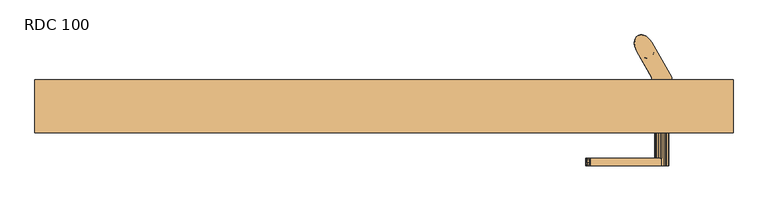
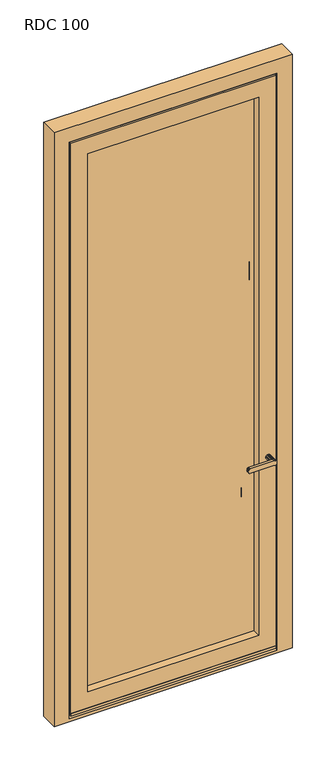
"""IFC4 building model written with IfcOpenShell, lengths in millimetres: door geometry, RDC 100."""

from ifc_helpers import new_model, si_unit, frame, origin, place, context, project, spatial, polyline, outline, extrude, faceted_brep, source, transform, mapped, element, save


def rdc_100_90584eb4(model_context):
    return source(origin(), model_context, "Body", "SolidModel", [
        faceted_brep([(781.7950515, 464.9671188, 3173.5), (778.3089649, 464.7977178, 3173.5), (775.20857, 463.6325784, 3173.5), (772.6493336, 461.5301259, 3173.5), (770.7595865, 458.5957857, 3173.5), (769.6340884, 454.9766982, 3173.5), (769.3292765, 450.8543393, 3173.5), (769.8604354, 446.4354214, 3173.5), (771.2009306, 441.9415275, 3173.5), (773.2835439, 437.5980002, 3173.5), (776.0038446, 433.622642, 3173.5), (779.2254254, 430.2147941, 3173.5), (782.7867427, 427.5453402, 3173.5), (786.5092172, 425.7481378, 3173.5), (790.2061885, 424.9133062, 3173.5), (793.6922751, 425.0827073, 3173.5), (796.7926699, 426.2478466, 3173.5), (799.3519063, 428.3502991, 3173.5), (801.2416535, 431.2846393, 3173.5), (802.3671516, 434.9037268, 3173.5), (802.6719635, 439.0260857, 3173.5), (802.1408046, 443.4450036, 3173.5), (800.8003094, 447.9388975, 3173.5), (798.717696, 452.2824248, 3173.5), (795.9973953, 456.257783, 3173.5), (792.7758146, 459.6656309, 3173.5), (789.2144973, 462.3350848, 3173.5), (785.4920228, 464.1322872, 3173.5), (799.3519063, 428.3502991, 213.5), (796.7926699, 426.2478466, 213.5), (793.6922751, 425.0827073, 213.5), (790.2061885, 424.9133062, 213.5), (786.5092172, 425.7481378, 213.5), (782.7867427, 427.5453402, 213.5), (779.2254254, 430.2147941, 213.5), (776.0038446, 433.622642, 213.5), (773.2835439, 437.5980002, 213.5), (771.2009306, 441.9415275, 213.5), (769.8604354, 446.4354214, 213.5), (769.3292765, 450.8543393, 213.5), (769.6340884, 454.9766982, 213.5), (770.7595865, 458.5957857, 213.5), (772.6493336, 461.5301259, 213.5), (775.20857, 463.6325784, 213.5), (778.3089649, 464.7977178, 213.5), (781.7950515, 464.9671188, 213.5), (785.4920228, 464.1322872, 213.5), (789.2144973, 462.3350848, 213.5), (792.7758146, 459.6656309, 213.5), (795.9973953, 456.257783, 213.5), (798.717696, 452.2824248, 213.5), (800.8003094, 447.9388975, 213.5), (802.1408046, 443.4450036, 213.5), (802.6719635, 439.0260857, 213.5), (802.3671516, 434.9037268, 213.5), (801.2416535, 431.2846393, 213.5), (775.4382854, 463.7611995, 3109.7202739), (773.2835439, 437.5980002, 305.882384), (770.096837, 456.8611962, 306.4622832), (783.6286225, 464.6737836, 3080.5377144), (783.6286239, 464.6737832, 297.5878259), (782.2503959, 464.9171769, 447.5991387), (788.7133741, 462.633364, 369.6983238), (776.7002876, 464.3371112, 368.3639702), (787.8536831, 463.1036002, 2017.9320828), (788.0570781, 462.9970291, 1923.1622134), (776.3111069, 464.1816353, 1969.471021), (769.3215203, 451.4374691, 3017.3016839), (773.8525674, 462.6929778, 3018.6360152), (770.5729144, 458.1711125, 2941.5941552), (773.2835439, 437.5980002, 3081.117616), (798.717696, 452.2824248, 3081.1176143), (798.717696, 452.2824248, 305.8823857), (786.1081687, 463.9007366, 2991.9159098), (769.5265438, 454.3273204, 395.0841039), (773.2835439, 437.5980002, 398.264768), (774.9823229, 463.4979492, 277.27972), (773.9644825, 462.7836018, 1319.9077775), (774.7679992, 463.3627966, 1415.6471907), (786.3881548, 463.7869455, 1361.207705), (772.1455564, 460.9165369, 460.8307156), (777.0379164, 464.4572952, 528.0009637), (787.6410792, 463.2119189, 2756.8613183), (798.717696, 452.2824248, 2710.4119218), (787.6539696, 463.2054407, 2664.1031244), (770.0968378, 456.8611986, 3089.4121677), (769.3737867, 452.9196575, 1554.573611), (769.3331652, 452.1422464, 1651.9272043), (775.1447373, 463.5954092, 1600.8824188), (798.717696, 452.2824248, 2988.7352287), (787.2275866, 463.4136252, 2849.455968), (798.717696, 452.2824248, 2895.8823842), (798.717696, 452.2824248, 2803.9704641), (798.717696, 452.2824248, 2803.0295398), (769.3375073, 450.5987754, 721.6031625), (769.3567233, 452.6570795, 813.9855457), (776.6688732, 464.3252466, 769.1927828), (775.6624945, 463.879234, 2710.4119319), (769.3746981, 452.9323319, 2480.6321356), (775.147664, 463.5971273, 2433.4275348), (769.3459644, 452.4557224, 2388.1321376), (775.272676, 463.6692748, 2525.1767042), (775.6624944, 463.8792339, 2617.7675376), (787.5288402, 463.2678387, 2570.094555), (773.2835439, 437.5980002, 952.5590718), (769.3301035, 452.04303, 900.9287605), (773.2835439, 437.5980002, 860.1766878), (769.3675949, 452.8303552, 2201.0537221), (773.2835439, 437.5980002, 2249.2056961), (769.3459644, 452.4557225, 2295.5145235), (786.4814203, 463.7478511, 1732.6163357), (774.0435965, 462.8461042, 1694.8280712), (774.9563773, 463.4819893, 1788.9182175), (769.3419041, 452.3680714, 2573.0145176), (787.5598195, 463.2524913, 1183.5150777), (787.9106278, 463.0740541, 1093.585659), (775.902952, 463.9979308, 1134.754917), (769.355789, 452.6409754, 1461.9559969), (773.2835439, 437.5980002, 1508.264768), (769.3443712, 452.4222865, 1371.4406735), (773.2835439, 437.5980002, 1415.6471519), (776.1406232, 464.1075509, 1878.9479538), (769.3559585, 452.6439126, 1832.4264532), (769.4392473, 453.6447667, 1925.0440673), (769.4099694, 453.3567772, 2664.0897353), (773.2835439, 437.5980002, 2341.8233122), (773.2835439, 437.5980002, 2432.5590722), (773.2835439, 437.5980002, 2434.4409282), (786.5218008, 463.7307401, 2384.8851606), (774.5244548, 463.1997646, 2341.8233312), (787.5136408, 463.2753443, 1829.1061855), (788.4798658, 462.7662363, 1645.4269877), (798.717696, 452.2824248, 1969.4709896), (773.7498308, 462.6074467, 2864.0921725), (778.7859506, 464.8834207, 2930.7084554), (798.717696, 452.2824248, 1691.6181474), (798.717696, 452.2824248, 1600.882384), (798.717696, 452.2824248, 1599.2357617), (787.3972815, 463.3322747, 1457.4592045), (786.2232203, 463.854626, 1272.1664524), (798.717696, 452.2824248, 1322.0886105), (798.717696, 452.2824248, 1230.4119199), (798.717696, 452.2824248, 1229.7062249), (769.3571051, 452.6635968, 1184.1031546), (775.1743901, 463.6127544, 1224.4782647), (769.329087, 452.0061998, 1739.8088391), (773.2835439, 437.5980002, 1693.5), (773.2835439, 437.5980002, 1784.2357655), (773.2835439, 437.5980002, 1786.117616), (798.717696, 452.2824248, 1878.735232), (798.717696, 452.2824248, 1876.8533775), (787.1516305, 463.4493953, 2476.0712384), (773.2835439, 437.5980002, 2339.941457), (798.717696, 452.2824248, 2432.5590737), (798.717696, 452.2824248, 2341.8233122), (798.717696, 452.2824248, 2339.9414616), (769.4323826, 453.5809697, 2760.2029636), (773.2835439, 437.5980002, 2711.5880801), (775.2365586, 463.6486774, 1508.2251806), (787.6565015, 463.2041669, 2108.3974412), (775.2739947, 463.6700231, 2156.5881032), (787.6307536, 463.2170997, 2201.0150551), (769.5196655, 454.2800512, 2015.8333542), (769.4122555, 453.3809152, 2106.5480553), (775.6039132, 463.8490917, 2062.9662927), (773.2835439, 437.5980002, 767.7943039), (798.717696, 452.2824248, 1044.9414594), (788.1433637, 462.9509461, 1008.1234025), (773.2835439, 437.5980002, 490.6471519), (769.3851929, 449.7531606, 461.1498017), (769.3458344, 452.4530358, 627.5817946), (769.3963374, 453.2055472, 536.8383937), (773.2835439, 437.5980002, 583.0295359), (786.930094, 463.5514578, 713.3140472), (782.3112408, 464.9093372, 619.4560475), (773.1279413, 462.0377675, 689.6168276), (769.4014717, 453.2640699, 1085.3241351), (773.2835439, 437.5980002, 1137.7943039), (769.3254684, 451.8487196, 1276.7207687), (798.717696, 452.2824248, 490.6471512), (798.717696, 452.2824248, 398.2647713), (792.6349348, 459.7909707, 444.4560006), (798.717696, 452.2824248, 860.176688), (789.0274434, 462.4485303, 906.3679313), (798.717696, 452.2824248, 952.5590737), (773.2431409, 462.1504562, 621.8958332), (773.2835439, 437.5980002, 675.4119199), (775.2085701, 463.6325785, 853.4847613), (787.6395548, 463.2126842, 813.9855493), (789.9107836, 461.8904181, 2924.3179136), (798.717696, 452.2824248, 2896.3528481), (776.6940556, 464.3347669, 2788.9717797), (769.8246921, 446.6084453, 2942.5440454), (773.2835439, 437.5980002, 2896.3528481), (773.2835439, 437.5980002, 2988.735232), (798.717696, 452.2824248, 2619.2056961), (798.717696, 452.2824248, 2617.7943038), (798.717696, 452.2824248, 2711.5880801), (798.717696, 452.2824248, 2525.1766858), (798.717696, 452.2824248, 2434.4409282), (773.2835439, 437.5980002, 2525.1766874), (773.2835439, 437.5980002, 2526.8233122), (773.2835439, 437.5980002, 2803.0295332), (773.2835439, 437.5980002, 2803.9704641), (786.8198492, 463.6009922, 2293.632669), (798.717696, 452.2824248, 2154.7062256), (798.717696, 452.2824248, 2249.2056961), (798.717696, 452.2824248, 2247.3238436), (774.5875791, 463.2430151, 2250.0419288), (773.2835439, 437.5980002, 2617.7943027), (773.2835439, 437.5980002, 2619.2056961), (798.717696, 452.2824248, 2526.8233122), (773.2835439, 437.5980002, 2710.4119179), (773.2835439, 437.5980002, 2156.5880801), (773.2835439, 437.5980002, 1878.735232), (773.2835439, 437.5980002, 1969.470996), (773.2835439, 437.5980002, 1971.3528481), (773.2835439, 437.5980002, 2062.0886112), (773.2835439, 437.5980002, 2063.9704641), (798.717696, 452.2824248, 2156.5880801), (798.717696, 452.2824248, 2063.9704641), (798.717696, 452.2824248, 2062.0886076), (773.2835439, 437.5980002, 2154.7062265), (773.2835439, 437.5980002, 2247.3238417), (798.717696, 452.2824248, 1971.3528481), (798.717696, 452.2824248, 1784.2357654), (798.717696, 452.2824248, 1693.5), (798.717696, 452.2824248, 1786.117616), (787.245171, 463.4052876, 1553.0446058), (798.717696, 452.2824248, 1506.853376), (798.717696, 452.2824248, 1508.264768), (798.717696, 452.2824248, 1414.4709962), (798.717696, 452.2824248, 1323.0295359), (798.717696, 452.2824248, 1137.323845), (798.717696, 452.2824248, 1137.7943039), (773.2835439, 437.5980002, 1229.7062239), (773.2835439, 437.5980002, 1230.4119199), (773.2835439, 437.5980002, 1322.0886127), (773.2835439, 437.5980002, 1323.0295359), (769.6279929, 454.9435278, 986.3205896), (776.453222, 464.2405737, 1044.9415053), (773.2835439, 437.5980002, 1045.1766878), (777.6313788, 464.6374177, 948.5095776), (773.2835439, 437.5980002, 1599.2357673), (773.2835439, 437.5980002, 1600.882384), (773.2835439, 437.5980002, 1876.8533807), (773.2835439, 437.5980002, 1414.4710015), (773.2835439, 437.5980002, 1506.8533844), (798.717696, 452.2824248, 1415.6471519), (798.717696, 452.2824248, 1045.1766878), (798.717696, 452.2824248, 767.7943023), (792.6132808, 459.8100799, 629.2207827), (798.717696, 452.2824248, 675.4119225), (798.717696, 452.2824248, 583.0295368), (773.2835439, 437.5980002, 1691.6181503), (789.5676839, 462.1139705, 536.8383992), (773.2835439, 437.5980002, 1044.9414581), (773.2835439, 437.5980002, 1137.323841), (769.3349927, 450.6679399, 2850.1616636), (773.2835439, 437.5980002, 2895.8823807), (796.5629546, 426.1192255, 3109.7202739), (801.904403, 433.0192288, 306.4622832), (788.3726175, 425.2066414, 3080.5377144), (788.3726161, 425.2066418, 297.5878259), (789.750844, 424.9632481, 447.5991387), (783.2878659, 427.247061, 369.6983238), (795.3009524, 425.5433138, 368.3639702), (784.1475568, 426.7768248, 2017.9320828), (783.9441618, 426.8833959, 1923.1622134), (795.690133, 425.6987897, 1969.471021), (802.6797196, 438.4429559, 3017.3016839), (798.1486725, 427.1874472, 3018.6360152), (801.4283256, 431.7093125, 2941.5941552), (785.8930712, 425.9796884, 2991.9159098), (802.4746961, 435.5531046, 395.0841039), (797.0189171, 426.3824758, 277.27972), (798.0367574, 427.0968232, 1319.9077775), (797.2332407, 426.5176284, 1415.6471907), (785.6130852, 426.0934795, 1361.207705), (799.8556835, 428.9638881, 460.8307156), (794.9633236, 425.4231298, 528.0009637), (784.3601608, 426.6685061, 2756.8613183), (784.3472704, 426.6749843, 2664.1031244), (801.9044022, 433.0192264, 3089.4121677), (802.6274533, 436.9607675, 1554.573611), (802.6680747, 437.7381786, 1651.9272043), (796.8565027, 426.2850158, 1600.8824188), (784.7736533, 426.4667998, 2849.455968), (802.6637327, 439.2816496, 721.6031625), (802.6445166, 437.2233455, 813.9855457), (795.3323668, 425.5551785, 769.1927828), (796.3387454, 426.001191, 2710.4119319), (802.6265418, 436.9480931, 2480.6321356), (796.8535759, 426.2832977, 2433.4275348), (802.6552755, 437.4247026, 2388.1321376), (796.728564, 426.2111502, 2525.1767042), (796.3387455, 426.0011911, 2617.7675376), (784.4723997, 426.6125863, 2570.094555), (802.6711364, 437.837395, 900.9287605), (802.6336451, 437.0500698, 2201.0537221), (802.6552755, 437.4247025, 2295.5145235), (785.5198197, 426.1325739, 1732.6163357), (797.9576435, 427.0343208, 1694.8280712), (797.0448627, 426.3984357, 1788.9182175), (802.6593358, 437.5123536, 2573.0145176), (784.4414204, 426.6279337, 1183.5150777), (784.0906122, 426.8063709, 1093.585659), (796.098288, 425.8824942, 1134.754917), (802.6454509, 437.2394496, 1461.9559969), (795.8606167, 425.7728741, 1878.9479538), (802.6452815, 437.2365124, 1832.4264532), (802.5619927, 436.2356583, 1925.0440673), (802.5912706, 436.5236478, 2664.0897353), (785.4794392, 426.1496849, 2384.8851606), (797.4767852, 426.6806604, 2341.8233312), (784.4875991, 426.6050807, 1829.1061855), (783.5213741, 427.1141887, 1645.4269877), (798.2514092, 427.2729783, 2864.0921725), (793.2152894, 424.9970043, 2930.7084554), (784.6039585, 426.5481503, 1457.4592045), (785.7780196, 426.025799, 1272.1664524), (802.6441349, 437.2168282, 1184.1031546), (796.8268499, 426.2676706, 1224.4782647), (802.672153, 437.8742252, 1739.8088391), (784.8496094, 426.4310297, 2476.0712384), (802.5688573, 436.2994553, 2760.2029636), (796.7646813, 426.2317476, 1508.2251806), (784.3447385, 426.6762581, 2108.3974412), (796.7272452, 426.2104019, 2156.5881032), (784.3704864, 426.6633253, 2201.0150551), (802.4815744, 435.6003738, 2015.8333542), (802.5889845, 436.4995098, 2106.5480553), (796.3973268, 426.0313333, 2062.9662927), (783.8578762, 426.9294789, 1008.1234025), (802.616047, 440.1272644, 461.1498017), (802.6554056, 437.4273892, 627.5817946), (802.6049025, 436.6748778, 536.8383937), (785.071146, 426.3289672, 713.3140472), (789.6899992, 424.9710878, 619.4560475), (798.8732986, 427.8426575, 689.6168276), (802.5997682, 436.6163551, 1085.3241351), (802.6757715, 438.0317054, 1276.7207687), (779.3663051, 430.0894543, 444.4560006), (782.9737966, 427.4318947, 906.3679313), (798.7580991, 427.7299688, 621.8958332), (796.7926698, 426.2478465, 853.4847613), (784.3616852, 426.6677408, 813.9855493), (782.0904563, 427.9900069, 2924.3179136), (795.3071843, 425.5456581, 2788.9717797), (802.1765478, 443.2719797, 2942.5440454), (785.1813907, 426.2794328, 2293.632669), (797.4136608, 426.6374099, 2250.0419288), (784.7560689, 426.4751374, 1553.0446058), (802.6568688, 437.4581385, 1371.4406735), (802.3732471, 434.9368972, 986.3205896), (795.5480179, 425.6398513, 1044.9415053), (794.3698611, 425.2430073, 948.5095776), (779.3879591, 430.0703451, 629.2207827), (782.4335561, 427.7664545, 536.8383992), (802.6662472, 439.2124851, 2850.1616636)], [[[0, 1, 2, 3, 4, 5, 6, 7, 8, 9, 10, 11, 12, 13, 14, 15, 16, 17, 18, 19, 20, 21, 22, 23, 24, 25, 26, 27]], [[28, 29, 30, 31, 32, 33, 34, 35, 36, 37, 38, 39, 40, 41, 42, 43, 44, 45, 46, 47, 48, 49, 50, 51, 52, 53, 54, 55]], [[56, 3, 2]], [[38, 57, 58]], [[59, 26, 25]], [[59, 0, 27]], [[47, 60, 48]], [[61, 62, 63]], [[64, 65, 66]], [[67, 68, 69]], [[45, 60, 46]], [[0, 56, 1]], [[70, 9, 8]], [[37, 36, 57]], [[24, 23, 71]], [[72, 50, 49]], [[59, 73, 68]], [[47, 46, 60]], [[74, 57, 75]], [[58, 76, 41]], [[77, 78, 79]], [[25, 24, 71]], [[80, 81, 61]], [[82, 83, 84]], [[6, 85, 7]], [[7, 70, 8]], [[86, 87, 88]], [[58, 57, 74]], [[60, 62, 72]], [[26, 59, 27]], [[73, 71, 89]], [[85, 67, 70]], [[76, 45, 44]], [[39, 58, 40]], [[90, 91, 92, 93]], [[94, 95, 96]], [[76, 44, 43]], [[84, 97, 82]], [[6, 5, 85]], [[98, 99, 100]], [[59, 56, 0]], [[85, 56, 68]], [[101, 102, 103]], [[58, 41, 40]], [[38, 37, 57]], [[60, 45, 76]], [[25, 71, 59]], [[76, 42, 41]], [[4, 3, 56]], [[63, 58, 74]], [[60, 76, 63]], [[4, 85, 5]], [[38, 58, 39]], [[48, 72, 49]], [[104, 105, 106]], [[56, 85, 4]], [[60, 72, 48]], [[59, 71, 73]], [[67, 85, 68]], [[62, 60, 63]], [[85, 70, 7]], [[107, 108, 109]], [[110, 111, 112]], [[98, 113, 101]], [[114, 115, 116]], [[86, 117, 118]], [[119, 120, 117]], [[121, 122, 123]], [[97, 102, 124]], [[100, 125, 126, 127]], [[99, 128, 129]], [[121, 130, 112]], [[131, 88, 111]], [[65, 64, 132]], [[112, 130, 110]], [[133, 69, 134]], [[131, 135, 136, 137]], [[78, 138, 79]], [[139, 140, 141, 142]], [[116, 143, 144]], [[145, 146, 147, 148]], [[65, 132, 149, 150]], [[151, 101, 103]], [[109, 108, 152, 125]], [[128, 153, 154, 155]], [[156, 124, 157]], [[158, 138, 78]], [[159, 160, 161]], [[162, 163, 164]], [[164, 159, 64]], [[95, 165, 106]], [[115, 166, 167]], [[75, 168, 169]], [[170, 171, 172]], [[173, 174, 175]], [[143, 176, 177]], [[178, 144, 143]], [[179, 180, 181]], [[171, 168, 172]], [[182, 183, 184]], [[170, 175, 185]], [[80, 169, 171]], [[94, 170, 186]], [[171, 81, 80]], [[95, 105, 187]], [[96, 173, 175]], [[96, 187, 188]], [[189, 89, 190, 91]], [[191, 90, 82]], [[124, 156, 97]], [[192, 193, 194]], [[82, 90, 93]], [[134, 189, 90]], [[90, 133, 134]], [[84, 83, 195, 196]], [[191, 82, 97]], [[82, 93, 197, 83]], [[103, 84, 196]], [[102, 97, 84]], [[151, 198, 199, 153]], [[198, 151, 103]], [[103, 102, 84]], [[102, 101, 113]], [[98, 127, 200, 201]], [[156, 157, 202, 203]], [[204, 128, 155]], [[99, 101, 151]], [[161, 205, 159]], [[204, 155, 206, 207]], [[204, 161, 208]], [[134, 68, 73]], [[191, 156, 133]], [[113, 201, 209, 210]], [[124, 113, 210]], [[98, 101, 99]], [[103, 196, 211, 198]], [[113, 124, 102]], [[98, 201, 113]], [[124, 210, 212, 157]], [[128, 99, 151]], [[125, 100, 109]], [[128, 151, 153]], [[129, 128, 204]], [[100, 99, 129]], [[98, 100, 127]], [[109, 100, 129]], [[107, 109, 208]], [[129, 208, 109]], [[163, 107, 160]], [[163, 213, 107]], [[204, 208, 129]], [[160, 107, 208]], [[160, 164, 163]], [[123, 214, 215, 216]], [[162, 216, 217, 218]], [[163, 162, 218]], [[123, 66, 121]], [[207, 161, 204]], [[162, 66, 123]], [[161, 207, 219, 205]], [[159, 205, 220, 221]], [[208, 161, 160]], [[64, 159, 221]], [[159, 164, 160]], [[163, 218, 222, 213]], [[107, 213, 223, 108]], [[164, 64, 66]], [[64, 221, 224, 132]], [[130, 65, 150]], [[121, 66, 65]], [[110, 225, 226, 135]], [[225, 110, 130]], [[131, 110, 135]], [[110, 131, 111]], [[130, 121, 65]], [[121, 112, 122]], [[130, 150, 227, 225]], [[138, 228, 229]], [[228, 137, 230, 229]], [[158, 88, 228]], [[79, 231, 232, 140]], [[231, 79, 138]], [[114, 139, 142]], [[79, 139, 77]], [[115, 114, 233]], [[114, 142, 234, 233]], [[139, 114, 144]], [[143, 177, 235, 236]], [[78, 119, 117]], [[143, 236, 178]], [[178, 236, 237, 238]], [[116, 176, 143]], [[239, 176, 240]], [[239, 241, 176]], [[242, 239, 240]], [[187, 105, 242]], [[86, 118, 243, 244]], [[122, 148, 245, 214]], [[112, 145, 122]], [[123, 122, 214]], [[145, 112, 111]], [[86, 244, 87]], [[145, 87, 146]], [[86, 88, 158]], [[138, 158, 228]], [[158, 78, 117]], [[158, 117, 86]], [[78, 77, 119]], [[119, 238, 246, 120]], [[117, 120, 247, 118]], [[119, 77, 178]], [[66, 162, 164]], [[216, 162, 123]], [[138, 229, 248, 231]], [[167, 184, 183]], [[116, 115, 240]], [[115, 233, 249, 166]], [[176, 116, 240]], [[114, 116, 144]], [[167, 240, 115]], [[187, 183, 188]], [[188, 250, 173]], [[250, 188, 182]], [[183, 187, 242]], [[251, 252, 253]], [[171, 170, 185]], [[105, 95, 106]], [[239, 105, 104]], [[95, 187, 96]], [[122, 145, 148]], [[87, 145, 111]], [[87, 111, 88]], [[87, 244, 254, 146]], [[173, 252, 251]], [[174, 251, 255]], [[137, 228, 131]], [[88, 131, 228]], [[77, 139, 144]], [[139, 79, 140]], [[119, 178, 238]], [[178, 77, 144]], [[186, 165, 94]], [[185, 175, 174]], [[170, 172, 186]], [[184, 167, 166]], [[242, 240, 167]], [[239, 104, 256, 241]], [[176, 241, 257, 177]], [[105, 239, 242]], [[255, 253, 179]], [[72, 62, 180]], [[80, 63, 74]], [[61, 181, 62]], [[61, 81, 255]], [[258, 203, 259, 193]], [[70, 67, 194]], [[258, 156, 203]], [[69, 192, 67]], [[69, 133, 258]], [[188, 183, 182]], [[167, 183, 242]], [[173, 96, 188]], [[96, 175, 94]], [[173, 250, 252]], [[63, 80, 61]], [[80, 74, 169]], [[95, 94, 165]], [[170, 94, 175]], [[258, 193, 192]], [[156, 258, 133]], [[68, 134, 69]], [[134, 73, 189]], [[89, 189, 73]], [[90, 189, 91]], [[255, 179, 181]], [[174, 255, 81]], [[75, 169, 74]], [[171, 169, 168]], [[156, 191, 97]], [[90, 191, 133]], [[42, 76, 43]], [[63, 76, 58]], [[1, 56, 2]], [[68, 56, 59]], [[174, 81, 185]], [[171, 185, 81]], [[62, 181, 180]], [[255, 181, 61]], [[67, 192, 194]], [[258, 192, 69]], [[255, 251, 253]], [[173, 251, 174]], [[260, 17, 16]], [[52, 72, 261]], [[262, 12, 11]], [[262, 14, 13]], [[33, 263, 34]], [[264, 265, 266]], [[267, 268, 269]], [[270, 271, 272]], [[31, 263, 32]], [[14, 260, 15]], [[71, 23, 22]], [[51, 50, 72]], [[10, 9, 70]], [[57, 36, 35]], [[262, 273, 271]], [[33, 32, 263]], [[274, 72, 180]], [[261, 275, 55]], [[276, 277, 278]], [[11, 10, 70]], [[279, 280, 264]], [[281, 212, 282]], [[20, 283, 21]], [[21, 71, 22]], [[284, 285, 286]], [[261, 72, 274]], [[263, 265, 57]], [[12, 262, 13]], [[273, 70, 194]], [[283, 270, 71]], [[275, 31, 30]], [[53, 261, 54]], [[287, 259, 203, 202]], [[288, 289, 290]], [[275, 30, 29]], [[282, 291, 281]], [[20, 19, 283]], [[292, 293, 294]], [[262, 260, 14]], [[283, 260, 271]], [[295, 296, 297]], [[261, 55, 54]], [[52, 51, 72]], [[263, 31, 275]], [[11, 70, 262]], [[275, 28, 55]], [[18, 17, 260]], [[266, 261, 274]], [[263, 275, 266]], [[18, 283, 19]], [[52, 261, 53]], [[34, 57, 35]], [[184, 298, 182]], [[260, 283, 18]], [[263, 57, 34]], [[262, 70, 273]], [[270, 283, 271]], [[265, 263, 266]], [[283, 71, 21]], [[299, 206, 300]], [[301, 302, 303]], [[292, 304, 295]], [[305, 306, 307]], [[284, 230, 137, 136]], [[308, 230, 284]], [[309, 310, 311]], [[291, 296, 312]], [[294, 154, 153, 199]], [[293, 313, 314]], [[309, 315, 303]], [[316, 286, 302]], [[268, 267, 215]], [[303, 315, 301]], [[317, 272, 318]], [[316, 254, 244, 243]], [[277, 319, 278]], [[320, 237, 236, 235]], [[307, 321, 322]], [[323, 226, 225, 227]], [[268, 215, 214, 245]], [[324, 295, 297]], [[300, 206, 155, 154]], [[313, 126, 125, 152]], [[325, 312, 197]], [[326, 319, 277]], [[327, 328, 329]], [[330, 331, 332]], [[332, 327, 267]], [[289, 250, 182]], [[306, 256, 333]], [[180, 179, 334]], [[335, 336, 253]], [[337, 338, 339]], [[321, 340, 234]], [[341, 322, 321]], [[168, 75, 342]], [[336, 179, 253]], [[106, 343, 104]], [[335, 339, 344]], [[279, 334, 336]], [[288, 335, 252]], [[336, 280, 279]], [[289, 298, 345]], [[290, 337, 339]], [[290, 345, 346]], [[347, 194, 193, 259]], [[348, 287, 281]], [[312, 325, 291]], [[349, 190, 89]], [[281, 287, 202]], [[318, 347, 287]], [[287, 317, 318]], [[282, 212, 210, 209]], [[348, 281, 291]], [[281, 202, 157, 212]], [[297, 282, 209]], [[296, 291, 282]], [[324, 200, 127, 126]], [[200, 324, 297]], [[297, 296, 282]], [[296, 295, 304]], [[292, 199, 198, 211]], [[325, 197, 93, 92]], [[350, 313, 152]], [[293, 295, 324]], [[329, 222, 327]], [[350, 152, 108, 223]], [[350, 329, 351]], [[318, 271, 273]], [[348, 325, 317]], [[304, 211, 196, 195]], [[312, 304, 195]], [[292, 295, 293]], [[297, 209, 201, 200]], [[304, 312, 296]], [[292, 211, 304]], [[312, 195, 83, 197]], [[313, 293, 324]], [[154, 294, 300]], [[313, 324, 126]], [[314, 313, 350]], [[294, 293, 314]], [[292, 294, 199]], [[300, 294, 314]], [[299, 300, 351]], [[314, 351, 300]], [[331, 299, 328]], [[331, 219, 299]], [[350, 351, 314]], [[328, 299, 351]], [[328, 332, 331]], [[311, 149, 132, 224]], [[330, 224, 221, 220]], [[331, 330, 220]], [[311, 269, 309]], [[223, 329, 350]], [[330, 269, 311]], [[329, 223, 213, 222]], [[327, 222, 218, 217]], [[351, 329, 328]], [[267, 327, 217]], [[327, 332, 328]], [[331, 220, 205, 219]], [[299, 219, 207, 206]], [[332, 267, 269]], [[267, 217, 216, 215]], [[315, 268, 245]], [[309, 269, 268]], [[301, 147, 146, 254]], [[147, 301, 315]], [[316, 301, 254]], [[301, 316, 302]], [[315, 309, 268]], [[309, 303, 310]], [[315, 245, 148, 147]], [[319, 352, 247]], [[352, 243, 118, 247]], [[326, 286, 352]], [[278, 246, 238, 237]], [[246, 278, 319]], [[305, 320, 235]], [[278, 320, 276]], [[306, 305, 257]], [[305, 235, 177, 257]], [[320, 305, 322]], [[321, 234, 142, 141]], [[277, 353, 308]], [[321, 141, 341]], [[341, 141, 140, 232]], [[307, 340, 321]], [[354, 340, 355]], [[354, 249, 340]], [[356, 354, 355]], [[345, 298, 356]], [[285, 284, 136]], [[310, 227, 150, 149]], [[303, 323, 310]], [[311, 310, 149]], [[323, 303, 302]], [[326, 284, 286]], [[323, 285, 226]], [[284, 326, 308]], [[319, 326, 352]], [[326, 277, 308]], [[353, 277, 276]], [[353, 248, 308]], [[353, 232, 231, 248]], [[308, 248, 229, 230]], [[353, 276, 341]], [[269, 330, 332]], [[224, 330, 311]], [[319, 247, 120, 246]], [[333, 104, 343]], [[307, 306, 355]], [[306, 257, 241, 256]], [[340, 307, 355]], [[305, 307, 322]], [[333, 355, 306]], [[345, 343, 346]], [[346, 165, 337]], [[165, 346, 106]], [[343, 345, 356]], [[357, 186, 172]], [[336, 335, 344]], [[298, 289, 182]], [[354, 298, 184]], [[289, 345, 290]], [[310, 323, 227]], [[285, 323, 302]], [[285, 302, 286]], [[285, 136, 135, 226]], [[337, 186, 357]], [[338, 357, 358]], [[243, 352, 316]], [[286, 316, 352]], [[276, 320, 322]], [[320, 278, 237]], [[353, 341, 232]], [[341, 276, 322]], [[252, 250, 288]], [[344, 339, 338]], [[335, 253, 252]], [[104, 333, 256]], [[356, 355, 333]], [[354, 184, 166, 249]], [[340, 249, 233, 234]], [[298, 354, 356]], [[358, 172, 168]], [[57, 265, 75]], [[279, 266, 274]], [[264, 342, 265]], [[264, 280, 358]], [[359, 92, 91, 190]], [[71, 270, 89]], [[359, 325, 92]], [[272, 349, 270]], [[272, 317, 359]], [[346, 343, 106]], [[333, 343, 356]], [[337, 290, 346]], [[290, 339, 288]], [[337, 165, 186]], [[266, 279, 264]], [[279, 274, 334]], [[289, 288, 250]], [[335, 288, 339]], [[359, 190, 349]], [[325, 359, 317]], [[271, 318, 272]], [[318, 273, 347]], [[194, 347, 273]], [[287, 347, 259]], [[358, 168, 342]], [[338, 358, 280]], [[180, 334, 274]], [[336, 334, 179]], [[325, 348, 291]], [[287, 348, 317]], [[28, 275, 29]], [[266, 275, 261]], [[15, 260, 16]], [[271, 260, 262]], [[338, 280, 344]], [[336, 344, 280]], [[265, 342, 75]], [[358, 342, 264]], [[270, 349, 89]], [[359, 349, 272]], [[358, 357, 172]], [[337, 357, 338]]]),
        faceted_brep([(827.5684577, 299.0, 1203.102886), (827.9769604, 299.0, 1200.0), (827.5684577, 299.0, 1196.897114), (826.3707884, 299.0, 1194.0056846), (824.4655717, 299.0, 1191.5227579), (821.982645, 299.0, 1189.6175412), (819.0912155, 299.0, 1188.4198719), (815.9883295, 299.0, 1188.0113692), (812.8854436, 299.0, 1188.4198719), (809.9940141, 299.0, 1189.6175412), (807.5110874, 299.0, 1191.5227579), (805.6058707, 299.0, 1194.0056846), (804.4082014, 299.0, 1196.897114), (803.9996987, 299.0, 1200.0), (804.4082014, 299.0, 1203.102886), (805.6058707, 299.0, 1205.9943154), (807.5110874, 299.0, 1208.4772421), (809.9940141, 299.0, 1210.3824588), (812.8854436, 299.0, 1211.5801281), (815.9883295, 299.0, 1211.9886308), (819.0912155, 299.0, 1211.5801281), (821.982645, 299.0, 1210.3824588), (824.4655717, 299.0, 1208.4772421), (826.3707884, 299.0, 1205.9943154), (815.9883295, 255.5001175, 1188.0113692), (812.8854436, 255.5001175, 1188.4198719), (809.9940141, 255.5001175, 1189.6175412), (807.5110874, 255.5001175, 1191.5227579), (805.6058707, 255.5001175, 1194.0056846), (804.4082014, 255.5001175, 1196.897114), (803.9996987, 255.5001175, 1200.0), (804.4082014, 255.5001175, 1203.102886), (805.6058707, 255.5001175, 1205.9943154), (807.5110874, 255.5001175, 1208.4772421), (809.9940141, 255.5001175, 1210.3824588), (812.8854436, 255.5001175, 1211.5801281), (815.9883295, 255.5001175, 1211.9886308), (815.9883295, 243.0000305, 1211.9886308), (819.0912155, 243.0000305, 1211.5801281), (821.982645, 243.0000305, 1210.3824588), (824.4655717, 243.0000305, 1208.4772421), (826.3707884, 243.0000305, 1205.9943154), (827.5684577, 243.0000305, 1203.102886), (827.9769604, 243.0000305, 1200.0), (827.5684577, 243.0000305, 1196.897114), (826.3707884, 243.0000305, 1194.0056846), (824.4655717, 243.0000305, 1191.5227579), (821.982645, 243.0000305, 1189.6175412), (819.0912155, 243.0000305, 1188.4198719), (815.9883295, 243.0000305, 1188.0113692), (694.3265369, 243.0000305, 1211.9886308), (692.7843324, 243.0000305, 1211.7582726), (691.301394, 243.0000305, 1211.0760506), (689.9347101, 243.0000305, 1209.9681822), (688.7368016, 243.0000305, 1208.4772421), (687.7537035, 243.0000305, 1206.6605264), (687.0231958, 243.0000305, 1204.5878504), (686.5733513, 243.0000305, 1202.3388658), (686.4214574, 243.0000305, 1200.0), (686.5733513, 243.0000305, 1197.6611342), (687.0231958, 243.0000305, 1195.4121496), (687.7537035, 243.0000305, 1193.3394736), (688.7368016, 243.0000305, 1191.5227579), (689.9347101, 243.0000305, 1190.0318178), (691.301394, 243.0000305, 1188.9239494), (692.7843324, 243.0000305, 1188.2417274), (694.3265369, 243.0000305, 1188.0113692), (686.5733513, 255.5001175, 1197.6611342), (686.4214574, 255.5001175, 1200.0), (686.5733513, 255.5001175, 1202.3388658), (687.0231958, 255.5001175, 1204.5878504), (687.7537035, 255.5001175, 1206.6605264), (688.7368016, 255.5001175, 1208.4772421), (689.9347101, 255.5001175, 1209.9681822), (691.301394, 255.5001175, 1211.0760506), (692.7843324, 255.5001175, 1211.7582726), (694.3265369, 255.5001175, 1211.9886308), (694.3265369, 255.5001175, 1188.0113692), (692.7843324, 255.5001175, 1188.2417274), (691.301394, 255.5001175, 1188.9239494), (689.9347101, 255.5001175, 1190.0318178), (688.7368016, 255.5001175, 1191.5227579), (687.7537035, 255.5001175, 1193.3394736), (687.0231958, 255.5001175, 1195.4121496), (694.3265369, 250.0756599, 1188.0113692), (690.6001083, 249.2500761, 1189.4269715), (688.2158278, 249.2500743, 1192.3944932), (686.7618475, 249.250074, 1196.5198842), (687.3548792, 249.250074, 1205.6514014), (686.4595226, 249.2500741, 1201.1750915), (689.3116076, 249.250074, 1209.2673369), (692.0318135, 249.250074, 1211.4724044), (694.3265369, 249.250074, 1211.9886308)], [[[0, 1, 2, 3, 4, 5, 6, 7, 8, 9, 10, 11, 12, 13, 14, 15, 16, 17, 18, 19, 20, 21, 22, 23]], [[7, 24, 25, 8]], [[8, 25, 26, 9]], [[11, 10, 27, 28]], [[27, 10, 9, 26]], [[12, 11, 28, 29]], [[12, 29, 30, 13]], [[13, 30, 31, 14]], [[14, 31, 32, 15]], [[17, 16, 33, 34]], [[33, 16, 15, 32]], [[18, 17, 34, 35]], [[18, 35, 36, 19]], [[19, 36, 37, 38, 20]], [[20, 38, 39, 21]], [[23, 22, 40, 41]], [[40, 22, 21, 39]], [[0, 23, 41, 42]], [[0, 42, 43, 1]], [[1, 43, 44, 2]], [[2, 44, 45, 3]], [[5, 4, 46, 47]], [[46, 4, 3, 45]], [[6, 5, 47, 48]], [[6, 48, 49, 24, 7]], [[44, 43, 42, 41, 40, 39, 38, 37, 50, 51, 52, 53, 54, 55, 56, 57, 58, 59, 60, 61, 62, 63, 64, 65, 66, 49, 48, 47, 46, 45]], [[67, 68, 69, 70, 71, 72, 73, 74, 75, 76, 36, 35, 34, 33, 32, 31, 30, 29, 28, 27, 26, 25, 24, 77, 78, 79, 80, 81, 82, 83]], [[24, 49, 66, 84, 77]], [[65, 64, 85]], [[86, 85, 63]], [[82, 87, 83]], [[80, 86, 81]], [[69, 88, 70]], [[84, 85, 78]], [[87, 60, 59]], [[89, 57, 56]], [[60, 87, 86]], [[73, 90, 91, 74]], [[62, 61, 86]], [[90, 72, 71, 88]], [[89, 87, 58]], [[79, 85, 80]], [[78, 77, 84]], [[65, 84, 66]], [[79, 78, 85]], [[87, 59, 58]], [[63, 85, 64]], [[61, 60, 86]], [[63, 62, 86]], [[81, 86, 82]], [[80, 85, 86]], [[75, 92, 76]], [[51, 50, 92]], [[88, 55, 54, 90]], [[82, 86, 87]], [[84, 65, 85]], [[67, 83, 87]], [[53, 52, 91, 90]], [[67, 87, 89]], [[88, 56, 55]], [[56, 88, 89]], [[52, 51, 91]], [[90, 54, 53]], [[68, 67, 89]], [[68, 89, 69]], [[69, 89, 88]], [[70, 88, 71]], [[51, 92, 91]], [[90, 73, 72]], [[74, 91, 75]], [[91, 92, 75]], [[89, 58, 57]], [[37, 36, 76, 92, 50]]]),
        faceted_brep([(-174.0, 299.0, 3204.0), (-174.0, 299.0, 165.0072496), (-174.0, 307.3, 167.8651688), (-174.0, 307.3, 3204.0), (-194.5, 307.3, 167.8651688), (-194.5, 307.3, 3224.5), (881.4883295, 307.3, 3224.5), (881.4883295, 307.3, 167.8651688), (860.9883295, 307.3, 167.8651688), (860.9883295, 307.3, 3204.0), (-194.5, 313.5, 170.0), (-194.5, 321.0, 170.0), (-194.5, 321.0, 164.3), (-194.5, 380.7, 164.3), (-194.5, 380.7, 3224.5), (-206.0, 388.9993365, 150.0), (-206.0, 388.9993365, 3236.0), (-206.0, 380.7, 3236.0), (-206.0, 380.7, 150.0), (-250.0, 388.9993365, 150.0), (-250.0, 388.9993365, 3280.0), (936.9883295, 388.9993365, 3280.0), (936.9883295, 388.9993365, 150.0), (892.9883295, 388.9993365, 150.0), (892.9883295, 388.9993365, 3236.0), (860.9883295, 299.0, 165.0072496), (860.9883295, 299.0, 3204.0), (892.9883295, 380.7, 150.0), (892.9883295, 380.7, 3236.0), (881.4883295, 380.7, 3224.5), (881.4883295, 380.7, 164.3), (881.4883295, 321.0, 164.3), (881.4883295, 321.0, 170.0), (881.4883295, 313.5, 170.0), (-250.0, 299.0, 3280.0), (936.9883295, 299.0, 3280.0), (-250.0, 299.0, 150.0), (936.9883295, 299.0, 150.0)], [[[0, 1, 2, 3]], [[3, 2, 4, 5, 6, 7, 8, 9]], [[5, 4, 10, 11, 12, 13, 14]], [[15, 16, 17, 18]], [[19, 20, 21, 22, 23, 24, 16, 15]], [[9, 8, 25, 26]], [[24, 23, 27, 28]], [[29, 30, 31, 32, 33, 7, 6]], [[26, 0, 3, 9]], [[28, 17, 16, 24]], [[21, 20, 34, 35]], [[29, 6, 5, 14]], [[19, 36, 34, 20]], [[35, 37, 22, 21]], [[37, 35, 34, 36], [1, 0, 26, 25]], [[19, 15, 18, 27, 23, 22, 37, 36]], [[10, 4, 2, 1, 25, 8, 7, 33]], [[18, 17, 28, 27], [30, 29, 14, 13]], [[13, 12, 31, 30]], [[12, 11, 32, 31]], [[11, 10, 33, 32]]]),
        faceted_brep([(799.0322291, 393.0, 3143.5), (832.94443, 393.0, 3143.5), (832.94443, 389.0, 3143.5), (799.0322291, 389.0, 3143.5), (799.0322291, 393.0, 3173.5), (832.94443, 393.0, 3173.5), (799.0322291, 389.0, 3177.5), (799.0322291, 393.0, 3177.5), (832.94443, 389.0, 3177.5), (832.94443, 393.0, 3177.5), (798.717696, 452.2824248, 3173.5), (773.2835439, 437.5980002, 3173.5), (771.2009306, 441.9415275, 3173.5), (769.8604354, 446.4354214, 3173.5), (769.3292765, 450.8543393, 3173.5), (769.6340884, 454.9766982, 3173.5), (770.7595865, 458.5957857, 3173.5), (772.6493336, 461.5301259, 3173.5), (775.20857, 463.6325784, 3173.5), (778.3089649, 464.7977178, 3173.5), (781.7950515, 464.9671188, 3173.5), (785.4920228, 464.1322872, 3173.5), (789.2144973, 462.3350848, 3173.5), (792.7758146, 459.6656309, 3173.5), (795.9973953, 456.257783, 3173.5), (781.7950515, 464.9671188, 3177.5), (778.3089649, 464.7977178, 3177.5), (775.20857, 463.6325784, 3177.5), (772.6493336, 461.5301259, 3177.5), (770.7595865, 458.5957857, 3177.5), (769.6340884, 454.9766982, 3177.5), (769.3292765, 450.8543393, 3177.5), (769.8604354, 446.4354214, 3177.5), (771.2009306, 441.9415275, 3177.5), (773.2835439, 437.5980002, 3177.5), (798.717696, 452.2824248, 3177.5), (795.9973953, 456.257783, 3177.5), (792.7758146, 459.6656309, 3177.5), (789.2144973, 462.3350848, 3177.5), (785.4920228, 464.1322872, 3177.5), (798.717696, 452.2824248, 3175.9099144), (773.2835439, 437.5980002, 3175.0900863), (771.6139998, 460.1586458, 3175.5), (783.6286215, 464.6737838, 3175.5), (769.3437719, 450.4468931, 3175.5)], [[[0, 1, 2, 3]], [[4, 5, 1, 0]], [[4, 0, 3, 6, 7]], [[6, 3, 2, 8]], [[5, 9, 8, 2, 1]], [[10, 5, 4, 11, 12, 13, 14, 15, 16, 17, 18, 19, 20, 21, 22, 23, 24]], [[25, 26, 27, 28, 29, 30, 31, 32, 33, 34, 7, 6, 8, 9, 35, 36, 37, 38, 39]], [[9, 5, 10, 40, 35]], [[4, 7, 34, 41, 11]], [[36, 35, 40]], [[40, 10, 24]], [[28, 42, 29]], [[40, 23, 43]], [[24, 23, 40]], [[21, 20, 43]], [[37, 43, 38]], [[39, 43, 25]], [[43, 19, 18]], [[12, 11, 41]], [[41, 34, 33]], [[21, 43, 22]], [[40, 37, 36]], [[43, 20, 19]], [[42, 16, 15]], [[43, 23, 22]], [[44, 41, 33]], [[43, 39, 38]], [[43, 26, 25]], [[43, 37, 40]], [[26, 43, 27]], [[42, 43, 18]], [[42, 17, 16]], [[14, 44, 15]], [[41, 13, 12]], [[41, 44, 13]], [[13, 44, 14]], [[33, 32, 44]], [[27, 43, 42]], [[17, 42, 18]], [[28, 27, 42]], [[29, 42, 30]], [[30, 42, 44]], [[44, 42, 15]], [[44, 31, 30]], [[44, 32, 31]]]),
        faceted_brep([(832.94443, 393.0, 243.5), (799.0322291, 393.0, 243.5), (799.0322291, 389.0, 243.5), (832.94443, 389.0, 243.5), (832.94443, 393.0, 213.5), (799.0322291, 393.0, 213.5), (799.0322291, 393.0, 209.5), (799.0322291, 389.0, 209.5), (832.94443, 389.0, 209.5), (832.94443, 393.0, 209.5), (778.308967, 464.7977182, 213.5), (775.2085716, 463.6325794, 213.5), (772.6493347, 461.5301271, 213.5), (770.7595871, 458.5957871, 213.5), (769.6340886, 454.9766994, 213.5), (769.3292765, 450.8543403, 213.5), (769.8604352, 446.4354221, 213.5), (771.2009304, 441.9415279, 213.5), (773.2835439, 437.5980002, 213.5), (798.7176987, 452.2824201, 213.5), (795.9973984, 456.2577791, 213.5), (792.7758179, 459.6656279, 213.5), (789.2145005, 462.3350828, 213.5), (785.4920258, 464.1322861, 213.5), (781.7950541, 464.9671186, 213.5), (773.2835439, 437.5980002, 209.5), (771.2009304, 441.9415279, 209.5), (769.8604352, 446.4354221, 209.5), (769.3292765, 450.8543403, 209.5), (769.6340886, 454.9766994, 209.5), (770.7595871, 458.5957871, 209.5), (772.6493347, 461.5301271, 209.5), (775.2085716, 463.6325794, 209.5), (778.308967, 464.7977182, 209.5), (781.7950541, 464.9671186, 209.5), (785.4920258, 464.1322861, 209.5), (789.2145005, 462.3350828, 209.5), (792.7758179, 459.6656279, 209.5), (795.9973984, 456.2577791, 209.5), (798.7176987, 452.2824201, 209.5), (798.7176987, 452.2824201, 211.9099144), (773.2835439, 437.5980002, 211.0900847), (771.6140006, 460.1586471, 211.5), (783.6286243, 464.6737832, 211.5), (769.3437718, 450.4468941, 211.5)], [[[0, 1, 2, 3]], [[1, 0, 4, 5]], [[5, 6, 7, 2, 1]], [[2, 7, 8, 3]], [[4, 0, 3, 8, 9]], [[10, 11, 12, 13, 14, 15, 16, 17, 18, 5, 4, 19, 20, 21, 22, 23, 24]], [[9, 8, 7, 6, 25, 26, 27, 28, 29, 30, 31, 32, 33, 34, 35, 36, 37, 38, 39]], [[4, 9, 39, 40, 19]], [[6, 5, 18, 41, 25]], [[20, 19, 40]], [[40, 39, 38]], [[12, 42, 13]], [[40, 37, 43]], [[38, 37, 40]], [[35, 34, 43]], [[21, 43, 22]], [[23, 43, 24]], [[43, 33, 32]], [[26, 25, 41]], [[41, 18, 17]], [[35, 43, 36]], [[40, 21, 20]], [[43, 34, 33]], [[42, 30, 29]], [[43, 37, 36]], [[44, 41, 17]], [[43, 23, 22]], [[43, 10, 24]], [[43, 21, 40]], [[10, 43, 11]], [[42, 43, 32]], [[42, 31, 30]], [[28, 44, 29]], [[41, 27, 26]], [[41, 44, 27]], [[27, 44, 28]], [[17, 16, 44]], [[11, 43, 42]], [[31, 42, 32]], [[12, 11, 42]], [[13, 42, 14]], [[14, 42, 44]], [[44, 42, 29]], [[44, 15, 14]], [[44, 16, 15]]]),
        extrude(outline(polyline([(853.9883295, 299.0), (-167.0, 299.0), (-167.0, 307.3), (853.9883295, 307.3), (853.9883295, 299.0)])), frame((0.0, 0.0, 176.0), z_axis=(0.0, 0.0, 1.0), x_axis=(1.0, 0.0, 0.0)), (0.0, 0.0, 1.0), 14.0),
        extrude(outline(polyline([(783.9883295, 378.0), (783.9883295, 340.0), (-97.0, 340.0), (-97.0, 378.0), (783.9883295, 378.0)])), frame((0.0, 0.0, 260.0), z_axis=(0.0, 0.0, 1.0), x_axis=(1.0, 0.0, 0.0)), (0.0, 0.0, 1.0), 2867.0),
        faceted_brep([(865.4883295, 307.3, 3208.5), (865.4883295, 307.3, 178.5), (865.4883295, 380.7, 178.5), (865.4883295, 380.7, 3208.5), (885.9883295, 380.7, 3229.0), (-199.0, 380.7, 3229.0), (-199.0, 380.7, 158.0), (885.9883295, 380.7, 158.0), (-178.5, 380.7, 3208.5), (-178.5, 380.7, 178.5), (-178.5, 307.3, 178.5), (-178.5, 307.3, 3208.5), (-167.0, 307.3, 3197.0), (853.9883295, 307.3, 3197.0), (853.9883295, 307.3, 190.0), (-167.0, 307.3, 190.0), (853.9883295, 299.0, 3197.0), (853.9883295, 299.0, 190.0), (-167.0, 299.0, 190.0), (-167.0, 299.0, 3197.0), (-81.9999695, 299.0, 3111.9999695), (768.988299, 299.0, 3111.9999695), (768.988299, 299.0, 275.0000305), (-81.9999695, 299.0, 275.0000305), (768.988299, 340.0, 3111.9999695), (768.988299, 340.0, 275.0000305), (-81.9999695, 340.0, 275.0000305), (-97.0, 340.0, 3127.0), (783.9883295, 340.0, 3127.0), (783.9883295, 340.0, 260.0), (-97.0, 340.0, 260.0), (-81.9999695, 340.0, 3111.9999695), (783.9883295, 378.0, 3127.0), (783.9883295, 378.0, 260.0), (-97.0, 378.0, 260.0), (-97.0, 378.0, 3127.0), (-80.0, 378.0, 3110.0), (766.9883295, 378.0, 3110.0), (766.9883295, 378.0, 277.0), (-80.0, 378.0, 277.0), (766.9883295, 389.0, 3110.0), (766.9883295, 389.0, 277.0), (-80.0, 389.0, 277.0), (-199.0, 389.0, 3229.0), (885.9883295, 389.0, 3229.0), (885.9883295, 389.0, 158.0), (-199.0, 389.0, 158.0), (-80.0, 389.0, 3110.0)], [[[0, 1, 2, 3]], [[4, 5, 6, 7], [8, 3, 2, 9]], [[1, 10, 9, 2]], [[0, 11, 10, 1], [12, 13, 14, 15]], [[16, 17, 14, 13]], [[17, 18, 15, 14]], [[16, 19, 18, 17], [20, 21, 22, 23]], [[24, 25, 22, 21]], [[25, 26, 23, 22]], [[27, 28, 29, 30], [24, 31, 26, 25]], [[32, 33, 29, 28]], [[33, 34, 30, 29]], [[32, 35, 34, 33], [36, 37, 38, 39]], [[40, 41, 38, 37]], [[41, 42, 39, 38]], [[43, 44, 45, 46], [40, 47, 42, 41]], [[4, 7, 45, 44]], [[7, 6, 46, 45]], [[10, 11, 8, 9]], [[18, 19, 12, 15]], [[26, 31, 20, 23]], [[34, 35, 27, 30]], [[42, 47, 36, 39]], [[6, 5, 43, 46]], [[11, 0, 3, 8]], [[19, 16, 13, 12]], [[31, 24, 21, 20]], [[35, 32, 28, 27]], [[47, 40, 37, 36]], [[5, 4, 44, 43]]]),
    ])


if __name__ == "__main__":
    model = new_model("IFC4")
    model_context = context("Model", 3, world=origin())
    ifc_project = project(units=[si_unit("LENGTHUNIT", "METRE", prefix="MILLI")], contexts=[model_context])
    site = spatial("IfcSite", under=ifc_project)
    building = spatial("IfcBuilding", under=site)
    placement = place(None, origin())
    rdc_100_shape = rdc_100_90584eb4(model_context)
    element("IfcDoor", 1, ObjectType="RDC 100", at=placement, inside=building, context=model_context, shape_type="MappedRepresentation", body=[
        mapped(rdc_100_shape, transform((0.0, 0.0, 0.0), x_axis=(1.0, 0.0, 0.0), y_axis=(0.0, 1.0, 0.0), z_axis=(0.0, 0.0, 1.0))),
    ])
    save(model, "model.ifc")
